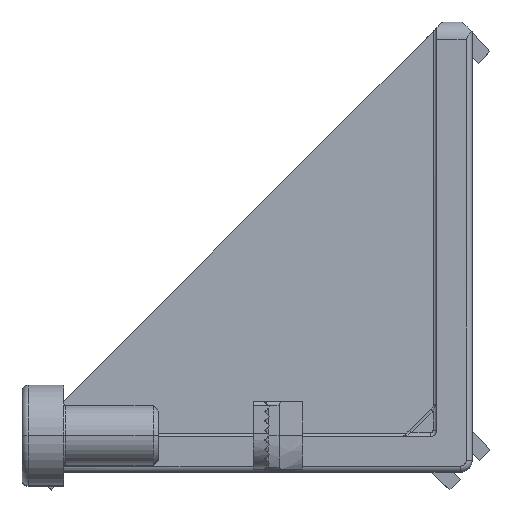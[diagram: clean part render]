
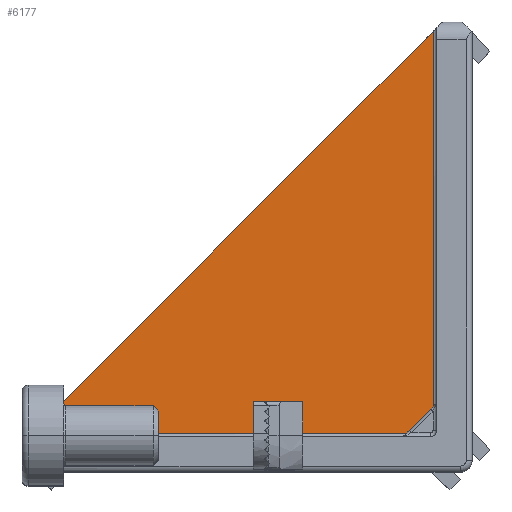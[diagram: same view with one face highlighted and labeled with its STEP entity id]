
A CAD part, top view. The second image highlights one B-rep face of the part: STEP entity #6177.
In plain terms, the highlighted planar face has unit normal (-0.012, 0.012, 1).
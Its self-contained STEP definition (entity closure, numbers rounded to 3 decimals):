
#6 = DIRECTION ( 'NONE',  ( 1., 0., 0.012 ) ) ;
#263 = VERTEX_POINT ( 'NONE', #6228 ) ;
#885 = EDGE_CURVE ( 'NONE', #263, #5257, #1923, .T. ) ;
#938 = VECTOR ( 'NONE', #7874, 1000. ) ;
#1294 = CARTESIAN_POINT ( 'NONE',  ( -3.296, 37.204, -6. ) ) ;
#1374 = CARTESIAN_POINT ( 'NONE',  ( -3.496, 3.296, -5.584 ) ) ;
#1396 = PLANE ( 'NONE',  #1441 ) ;
#1441 = AXIS2_PLACEMENT_3D ( 'NONE', #4949, #4265, #6 ) ;
#1484 = CARTESIAN_POINT ( 'NONE',  ( -3.5, 3.296, -5.584 ) ) ;
#1798 = CARTESIAN_POINT ( 'NONE',  ( -3.296, 3.496, -5.584 ) ) ;
#1923 = LINE ( 'NONE', #1484, #938 ) ;
#2351 = LINE ( 'NONE', #6212, #4258 ) ;
#2473 = EDGE_LOOP ( 'NONE', ( #4842, #7600, #8635, #8156 ) ) ;
#2642 = DIRECTION ( 'NONE',  ( 0., 1., -0.012 ) ) ;
#2661 = EDGE_CURVE ( 'NONE', #5953, #4981, #5596, .T. ) ;
#3902 = VECTOR ( 'NONE', #2642, 1000. ) ;
#4258 = VECTOR ( 'NONE', #6240, 1000. ) ;
#4265 = DIRECTION ( 'NONE',  ( -0.012, 0.012, 1. ) ) ;
#4650 = CARTESIAN_POINT ( 'NONE',  ( -3.296, 3.379, -5.583 ) ) ;
#4805 = CARTESIAN_POINT ( 'NONE',  ( -3.296, 37.5, -6.004 ) ) ;
#4842 = ORIENTED_EDGE ( 'NONE', *, *, #5144, .T. ) ;
#4949 = CARTESIAN_POINT ( 'NONE',  ( -38., 2.5, -6. ) ) ;
#4962 = EDGE_CURVE ( 'NONE', #263, #4981, #2351, .T. ) ;
#4981 = VERTEX_POINT ( 'NONE', #1294 ) ;
#5006 =( BOUNDED_CURVE ( )  B_SPLINE_CURVE ( 3, ( #6075, #8884, #4650, #1798 ),
 .UNSPECIFIED., .F., .F. ) 
 B_SPLINE_CURVE_WITH_KNOTS ( ( 4, 4 ),
 ( 2.356, 3.927 ),
 .UNSPECIFIED. ) 
 CURVE ( )  GEOMETRIC_REPRESENTATION_ITEM ( )  RATIONAL_B_SPLINE_CURVE ( ( 1., 0.805, 0.805, 1. ) ) 
 REPRESENTATION_ITEM ( '' )  );
#5144 = EDGE_CURVE ( 'NONE', #5257, #5953, #5006, .T. ) ;
#5257 = VERTEX_POINT ( 'NONE', #1374 ) ;
#5596 = LINE ( 'NONE', #4805, #3902 ) ;
#5953 = VERTEX_POINT ( 'NONE', #6082 ) ;
#6075 = CARTESIAN_POINT ( 'NONE',  ( -3.496, 3.296, -5.584 ) ) ;
#6082 = CARTESIAN_POINT ( 'NONE',  ( -3.296, 3.496, -5.584 ) ) ;
#6177 = ADVANCED_FACE ( 'NONE', ( #7220 ), #1396, .T. ) ;
#6212 = CARTESIAN_POINT ( 'NONE',  ( -38., 2.5, -6. ) ) ;
#6228 = CARTESIAN_POINT ( 'NONE',  ( -37.204, 3.296, -6. ) ) ;
#6240 = DIRECTION ( 'NONE',  ( 0.707, 0.707, 0. ) ) ;
#7220 = FACE_OUTER_BOUND ( 'NONE', #2473, .T. ) ;
#7600 = ORIENTED_EDGE ( 'NONE', *, *, #2661, .T. ) ;
#7874 = DIRECTION ( 'NONE',  ( 1., 0., 0.012 ) ) ;
#8156 = ORIENTED_EDGE ( 'NONE', *, *, #885, .T. ) ;
#8635 = ORIENTED_EDGE ( 'NONE', *, *, #4962, .F. ) ;
#8884 = CARTESIAN_POINT ( 'NONE',  ( -3.379, 3.296, -5.583 ) ) ;
